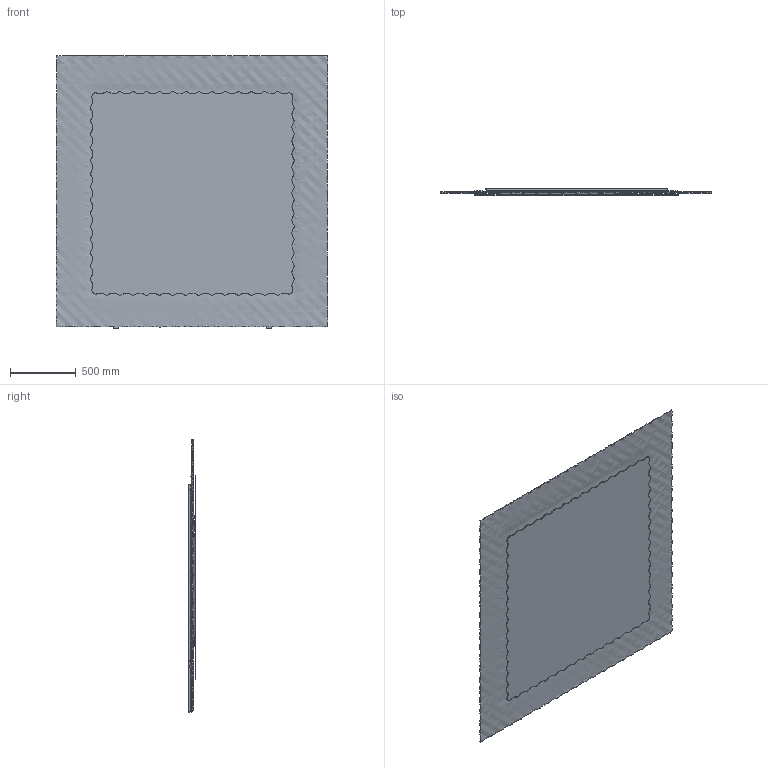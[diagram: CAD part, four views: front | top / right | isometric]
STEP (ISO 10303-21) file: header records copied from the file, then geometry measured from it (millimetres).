
FILE_DESCRIPTION(/* description */ (''),/* implementation_level */ '2;1');
FILE_NAME(/* name */ 'POP_206x206',/* time_stamp */ '2025-02-21T17:44:10+01:00',/* author */ (''),/* organization */ (''),/* preprocessor_version */ 'ST-DEVELOPER v16.5',/* originating_system */ '',/* authorisation */ '');
FILE_SCHEMA (('AUTOMOTIVE_DESIGN'));
Length unit declared in the file: millimetre
Products named in the file (1): Document
Bounding box: 2062.06 x 57.97 x 2070.26 mm (x, y, z)
Volume: 43765874.3 mm3; surface area: 15218972.1 mm2
Topology: 17 solids, 19 shells, 153 faces, 327 edges, 216 vertices
Faces by surface type: plane 140, bspline 13
Entity records: 274886 total; most frequent: CARTESIAN_POINT 272402, ORIENTED_EDGE 642, EDGE_CURVE 325, B_SPLINE_CURVE_WITH_KNOTS 298, VERTEX_POINT 214, EDGE_LOOP 167, ADVANCED_FACE 153, FACE_OUTER_BOUND 153
